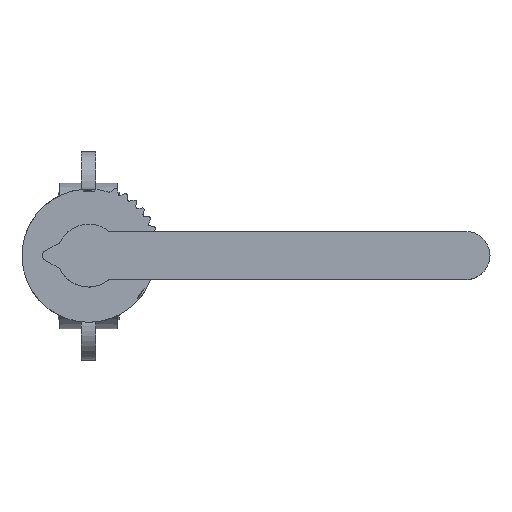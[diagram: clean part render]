
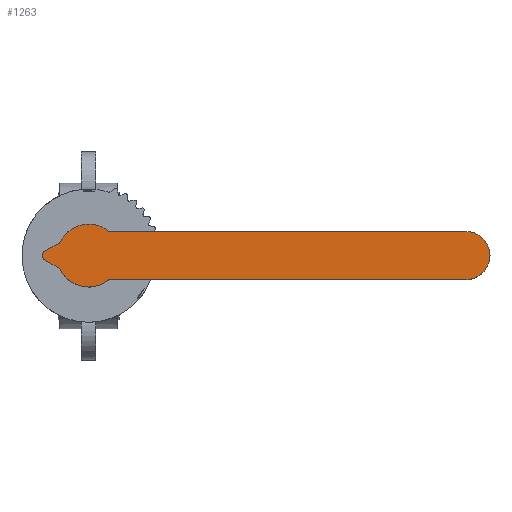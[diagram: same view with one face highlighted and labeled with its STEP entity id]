
A CAD part, top view. The second image highlights one B-rep face of the part: STEP entity #1263.
In plain terms, the highlighted planar face has unit normal (0, 0, 1).
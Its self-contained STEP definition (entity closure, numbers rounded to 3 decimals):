
#1263=ADVANCED_FACE('',(#2801),#2803,.T.);
#2801=FACE_BOUND('',#2802,.T.);
#2802=EDGE_LOOP('',(#3903,#3904,#3905,#3906,#3907,#3908,#3909,#3910,#3911,#3912,
#3913));
#2803=PLANE('',#2804);
#2804=AXIS2_PLACEMENT_3D('',#2805,#2806,#2807);
#2805=CARTESIAN_POINT('',(-1.545,-4.755,135.));
#2806=DIRECTION('',(0.,0.,1.));
#2807=DIRECTION('',(0.951,-0.309,0.));
#3903=ORIENTED_EDGE('',*,*,#4575,.T.);
#3904=ORIENTED_EDGE('',*,*,#4554,.T.);
#3905=ORIENTED_EDGE('',*,*,#4553,.T.);
#3906=ORIENTED_EDGE('',*,*,#4576,.T.);
#3907=ORIENTED_EDGE('',*,*,#4577,.T.);
#3908=ORIENTED_EDGE('',*,*,#4578,.T.);
#3909=ORIENTED_EDGE('',*,*,#4579,.T.);
#3910=ORIENTED_EDGE('',*,*,#4580,.T.);
#3911=ORIENTED_EDGE('',*,*,#4549,.T.);
#3912=ORIENTED_EDGE('',*,*,#4561,.T.);
#3913=ORIENTED_EDGE('',*,*,#4581,.T.);
#4549=EDGE_CURVE('',#5287,#5285,#5288,.T.);
#4553=EDGE_CURVE('',#5295,#5293,#5296,.T.);
#4554=EDGE_CURVE('',#5297,#5295,#5298,.T.);
#4561=EDGE_CURVE('',#5285,#5309,#5310,.T.);
#4575=EDGE_CURVE('',#5336,#5297,#5337,.T.);
#4576=EDGE_CURVE('',#5293,#5338,#5339,.T.);
#4577=EDGE_CURVE('',#5338,#5340,#5341,.T.);
#4578=EDGE_CURVE('',#5340,#5342,#5343,.T.);
#4579=EDGE_CURVE('',#5342,#5344,#5345,.T.);
#4580=EDGE_CURVE('',#5344,#5287,#5346,.T.);
#4581=EDGE_CURVE('',#5309,#5336,#5347,.T.);
#5285=VERTEX_POINT('',#7958);
#5287=VERTEX_POINT('',#7962);
#5288=CIRCLE('',#7963,17.);
#5293=VERTEX_POINT('',#7976);
#5295=VERTEX_POINT('',#7980);
#5296=CIRCLE('',#7981,17.);
#5297=VERTEX_POINT('',#7985);
#5298=CIRCLE('',#7986,17.);
#5309=VERTEX_POINT('',#8015);
#5310=LINE('',#8016,#8017);
#5336=VERTEX_POINT('',#8070);
#5337=LINE('',#8071,#8072);
#5338=VERTEX_POINT('',#8074);
#5339=CIRCLE('',#8075,3.);
#5340=VERTEX_POINT('',#8079);
#5341=LINE('',#8080,#8081);
#5342=VERTEX_POINT('',#8083);
#5343=CIRCLE('',#8084,3.);
#5344=VERTEX_POINT('',#8088);
#5345=LINE('',#8089,#8090);
#5346=CIRCLE('',#8092,3.);
#5347=CIRCLE('',#8096,13.);
#7958=CARTESIAN_POINT('',(10.954,-13.,135.));
#7962=CARTESIAN_POINT('',(-15.113,-7.785,135.));
#7963=AXIS2_PLACEMENT_3D('',#7964,#7965,#7966);
#7964=CARTESIAN_POINT('',(0.,0.,135.));
#7965=DIRECTION('',(0.,0.,1.));
#7966=DIRECTION('',(-0.889,-0.458,0.));
#7976=CARTESIAN_POINT('',(-15.113,7.785,135.));
#7980=CARTESIAN_POINT('',(2.659,16.791,135.));
#7981=AXIS2_PLACEMENT_3D('',#7982,#7983,#7984);
#7982=CARTESIAN_POINT('',(0.,0.,135.));
#7983=DIRECTION('',(0.,0.,1.));
#7984=DIRECTION('',(0.156,0.988,0.));
#7985=CARTESIAN_POINT('',(10.954,13.,135.));
#7986=AXIS2_PLACEMENT_3D('',#7987,#7988,#7989);
#7987=CARTESIAN_POINT('',(0.,0.,135.));
#7988=DIRECTION('',(0.,0.,1.));
#7989=DIRECTION('',(0.644,0.765,0.));
#8015=CARTESIAN_POINT('',(204.,-13.,135.));
#8016=CARTESIAN_POINT('',(10.954,-13.,135.));
#8017=VECTOR('',#8018,1.);
#8018=DIRECTION('',(1.,0.,0.));
#8070=CARTESIAN_POINT('',(204.,13.,135.));
#8071=CARTESIAN_POINT('',(204.,13.,135.));
#8072=VECTOR('',#8073,1.);
#8073=DIRECTION('',(-1.,0.,0.));
#8074=CARTESIAN_POINT('',(-16.317,6.539,135.));
#8075=AXIS2_PLACEMENT_3D('',#8076,#8077,#8078);
#8076=CARTESIAN_POINT('',(-17.78,9.159,135.));
#8077=DIRECTION('',(0.,0.,-1.));
#8078=DIRECTION('',(0.889,-0.458,0.));
#8079=CARTESIAN_POINT('',(-23.338,2.619,135.));
#8080=CARTESIAN_POINT('',(-16.317,6.539,135.));
#8081=VECTOR('',#8082,1.);
#8082=DIRECTION('',(-0.873,-0.487,0.));
#8083=CARTESIAN_POINT('',(-23.338,-2.619,135.));
#8084=AXIS2_PLACEMENT_3D('',#8085,#8086,#8087);
#8085=CARTESIAN_POINT('',(-21.876,0.,135.));
#8086=DIRECTION('',(0.,0.,1.));
#8087=DIRECTION('',(-0.487,0.873,0.));
#8088=CARTESIAN_POINT('',(-16.317,-6.539,135.));
#8089=CARTESIAN_POINT('',(-23.338,-2.619,135.));
#8090=VECTOR('',#8091,1.);
#8091=DIRECTION('',(0.873,-0.487,0.));
#8092=AXIS2_PLACEMENT_3D('',#8093,#8094,#8095);
#8093=CARTESIAN_POINT('',(-17.78,-9.159,135.));
#8094=DIRECTION('',(0.,0.,-1.));
#8095=DIRECTION('',(0.487,0.873,0.));
#8096=AXIS2_PLACEMENT_3D('',#8097,#8098,#8099);
#8097=CARTESIAN_POINT('',(204.,0.,135.));
#8098=DIRECTION('',(0.,0.,1.));
#8099=DIRECTION('',(0.,-1.,0.));
